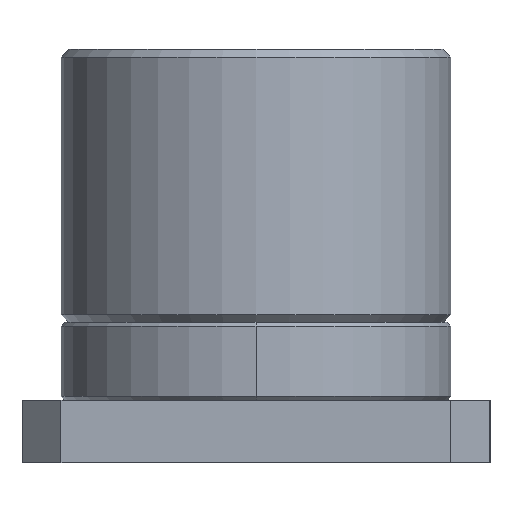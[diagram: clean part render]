
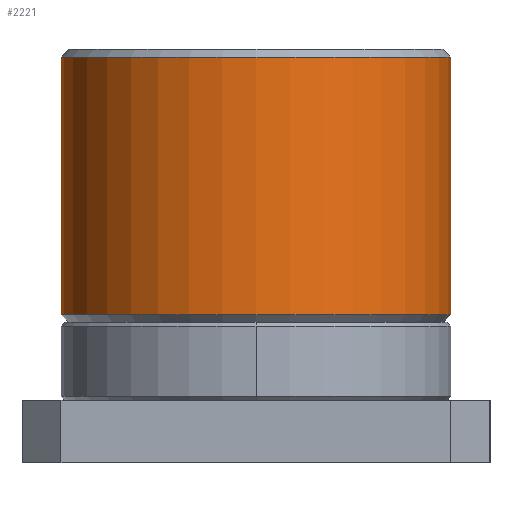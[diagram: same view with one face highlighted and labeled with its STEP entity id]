
A CAD part, left-side view. The second image highlights one B-rep face of the part: STEP entity #2221.
In plain terms, the highlighted cylindrical face has radius 25 mm (diameter 50 mm), a partial arc.
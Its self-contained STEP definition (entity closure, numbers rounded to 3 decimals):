
#2101=AXIS2_PLACEMENT_3D('Circle Axis2P3D',#2099,#2100,$) ;
#2182=AXIS2_PLACEMENT_3D('Cylinder Axis2P3D',#2179,#2180,#2181) ;
#2212=AXIS2_PLACEMENT_3D('Circle Axis2P3D',#2210,#2211,$) ;
#2096=CARTESIAN_POINT('Vertex',(-25.,0.,34.)) ;
#2099=CARTESIAN_POINT('Axis2P3D Location',(0.,0.,34.)) ;
#2103=CARTESIAN_POINT('Vertex',(25.,0.,34.)) ;
#2179=CARTESIAN_POINT('Axis2P3D Location',(0.,0.,17.5)) ;
#2184=CARTESIAN_POINT('Line Origine',(-25.,0.,17.5)) ;
#2188=CARTESIAN_POINT('Vertex',(-25.,0.,1.)) ;
#2191=CARTESIAN_POINT('Line Origine',(25.,0.,17.5)) ;
#2195=CARTESIAN_POINT('Vertex',(25.,0.,1.)) ;
#2210=CARTESIAN_POINT('Axis2P3D Location',(0.,0.,1.)) ;
#2100=DIRECTION('Axis2P3D Direction',(0.,0.,1.)) ;
#2180=DIRECTION('Axis2P3D Direction',(0.,0.,1.)) ;
#2181=DIRECTION('Axis2P3D XDirection',(1.,0.,0.)) ;
#2185=DIRECTION('Vector Direction',(0.,0.,1.)) ;
#2192=DIRECTION('Vector Direction',(0.,0.,1.)) ;
#2211=DIRECTION('Axis2P3D Direction',(0.,0.,1.)) ;
#2186=VECTOR('Line Direction',#2185,1.) ;
#2193=VECTOR('Line Direction',#2192,1.) ;
#2216=ORIENTED_EDGE('',*,*,#2197,.T.) ;
#2217=ORIENTED_EDGE('',*,*,#2105,.F.) ;
#2218=ORIENTED_EDGE('',*,*,#2190,.F.) ;
#2219=ORIENTED_EDGE('',*,*,#2214,.T.) ;
#2221=ADVANCED_FACE('\X2\96F64EF651E04F554F53\X0\',(#2220),#2183,.T.) ;
#2102=CIRCLE('generated circle',#2101,25.) ;
#2213=CIRCLE('generated circle',#2212,25.) ;
#2183=CYLINDRICAL_SURFACE('generated cylinder',#2182,25.) ;
#2105=EDGE_CURVE('',#2097,#2104,#2102,.T.) ;
#2190=EDGE_CURVE('',#2189,#2097,#2187,.T.) ;
#2197=EDGE_CURVE('',#2196,#2104,#2194,.T.) ;
#2214=EDGE_CURVE('',#2189,#2196,#2213,.T.) ;
#2215=EDGE_LOOP('',(#2216,#2217,#2218,#2219)) ;
#2220=FACE_OUTER_BOUND('',#2215,.T.) ;
#2187=LINE('Line',#2184,#2186) ;
#2194=LINE('Line',#2191,#2193) ;
#2097=VERTEX_POINT('',#2096) ;
#2104=VERTEX_POINT('',#2103) ;
#2189=VERTEX_POINT('',#2188) ;
#2196=VERTEX_POINT('',#2195) ;
